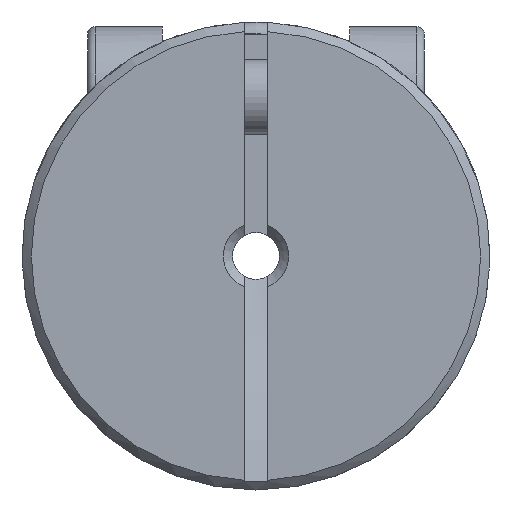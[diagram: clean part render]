
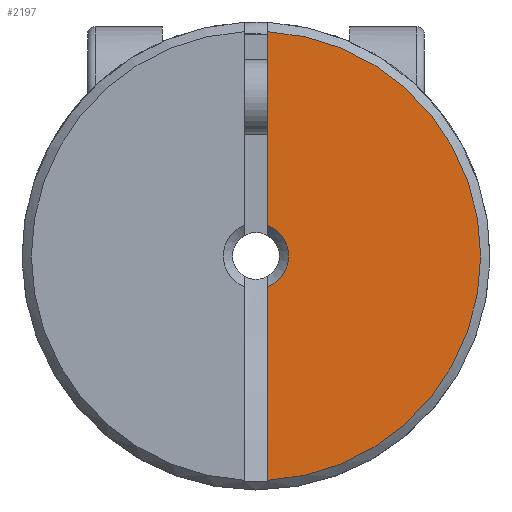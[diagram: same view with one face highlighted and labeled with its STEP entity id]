
A CAD part, left-side view. The second image highlights one B-rep face of the part: STEP entity #2197.
In plain terms, the highlighted planar face has unit normal (-1, 0, 0).
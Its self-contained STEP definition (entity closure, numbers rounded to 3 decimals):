
#104=LINE('',#3636,#190);
#107=LINE('',#3652,#193);
#190=VECTOR('',#2768,1000.);
#193=VECTOR('',#2773,1000.);
#261=PLANE('',#2406);
#478=ORIENTED_EDGE('',*,*,#1014,.T.);
#479=ORIENTED_EDGE('',*,*,#980,.F.);
#480=ORIENTED_EDGE('',*,*,#1015,.F.);
#481=ORIENTED_EDGE('',*,*,#975,.F.);
#975=EDGE_CURVE('',#1246,#1247,#104,.T.);
#980=EDGE_CURVE('',#1251,#1252,#107,.T.);
#1014=EDGE_CURVE('',#1246,#1252,#1432,.T.);
#1015=EDGE_CURVE('',#1247,#1251,#1433,.T.);
#1246=VERTEX_POINT('',#3635);
#1247=VERTEX_POINT('',#3637);
#1251=VERTEX_POINT('',#3653);
#1252=VERTEX_POINT('',#3654);
#1432=CIRCLE('',#2407,0.7);
#1433=CIRCLE('',#2408,4.8);
#1597=EDGE_LOOP('',(#478,#479,#480,#481));
#1889=FACE_BOUND('',#1597,.T.);
#2197=ADVANCED_FACE('',(#1889),#261,.F.);
#2406=AXIS2_PLACEMENT_3D('',#3773,#2825,#2826);
#2407=AXIS2_PLACEMENT_3D('',#3774,#2827,#2828);
#2408=AXIS2_PLACEMENT_3D('',#3775,#2829,#2830);
#2768=DIRECTION('',(0.,0.,1.));
#2773=DIRECTION('',(0.,0.,1.));
#2825=DIRECTION('',(1.,0.,0.));
#2826=DIRECTION('',(0.,0.,-1.));
#2827=DIRECTION('',(1.,0.,0.));
#2828=DIRECTION('',(0.,0.,-1.));
#2829=DIRECTION('',(1.,0.,0.));
#2830=DIRECTION('',(0.,0.,-1.));
#3635=CARTESIAN_POINT('',(0.,-0.25,0.654));
#3636=CARTESIAN_POINT('',(0.,-0.25,-4.852));
#3637=CARTESIAN_POINT('',(0.,-0.25,4.793));
#3652=CARTESIAN_POINT('',(0.,-0.25,-4.852));
#3653=CARTESIAN_POINT('',(0.,-0.25,-4.793));
#3654=CARTESIAN_POINT('',(0.,-0.25,-0.654));
#3773=CARTESIAN_POINT('',(0.,0.,0.));
#3774=CARTESIAN_POINT('',(0.,0.,0.));
#3775=CARTESIAN_POINT('',(0.,0.,0.));
